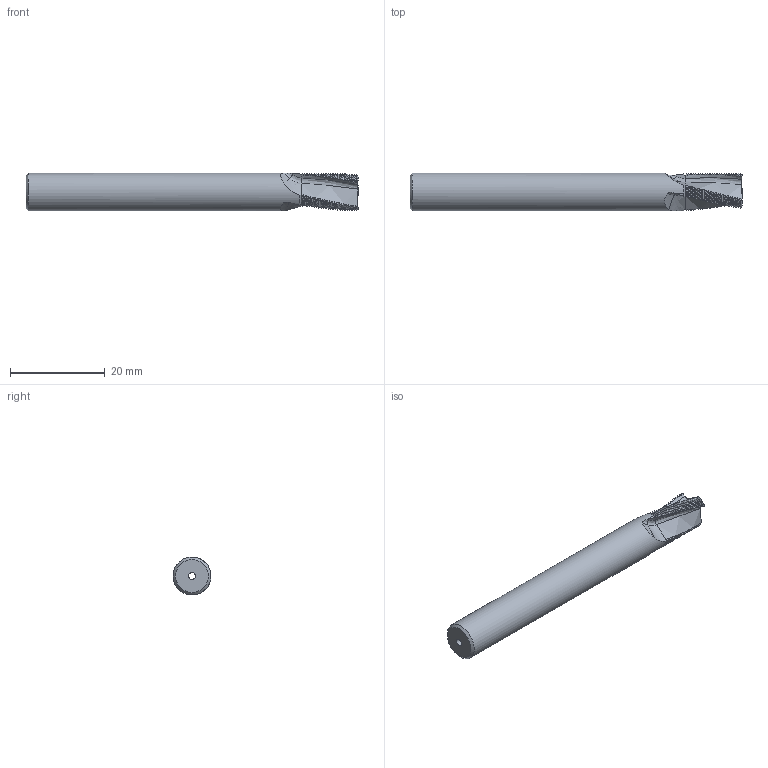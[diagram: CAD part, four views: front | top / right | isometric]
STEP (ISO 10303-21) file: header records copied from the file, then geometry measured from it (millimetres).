
FILE_DESCRIPTION(/* description */ (''),/* implementation_level */ '2;1');
FILE_NAME(/* name */ '00035564-STEP',/* time_stamp */ '2024-02-13T10:50:25+01:00',/* author */ (''),/* organization */ (''),/* preprocessor_version */ 'ST-DEVELOPER v16.5',/* originating_system */ 'HiCAD 2017 2201.0 Build 268',/* authorisation */ '');
FILE_SCHEMA (('AUTOMOTIVE_DESIGN { 1 0 10303 214 1 1 1 1 }'));
Products named in the file (2): Root; ROTATIONSTEIL_2
Assembly tree (1 placements, depth 2):
  Root
    ROTATIONSTEIL_2
Bounding box: 70 x 8 x 8 mm (x, y, z)
Volume: 3033 mm3; surface area: 2203.5 mm2
Topology: 1 solids, 1 shells, 474 faces, 1408 edges, 936 vertices
Faces by surface type: cylinder 150, cone 148, torus 147, bspline 27, plane 2
Full cylindrical faces by diameter (mm): 1.5 x1, 8 x1
Entity records: 47546 total; most frequent: CARTESIAN_POINT 23377, PRESENTATION_STYLE_ASSIGNMENT 2799, COLOUR_RGB 2799, DRAUGHTING_PRE_DEFINED_CURVE_FONT 2798, CURVE_STYLE 2798, OVER_RIDING_STYLED_ITEM 2798, ORIENTED_EDGE 2798, DIRECTION 1794
